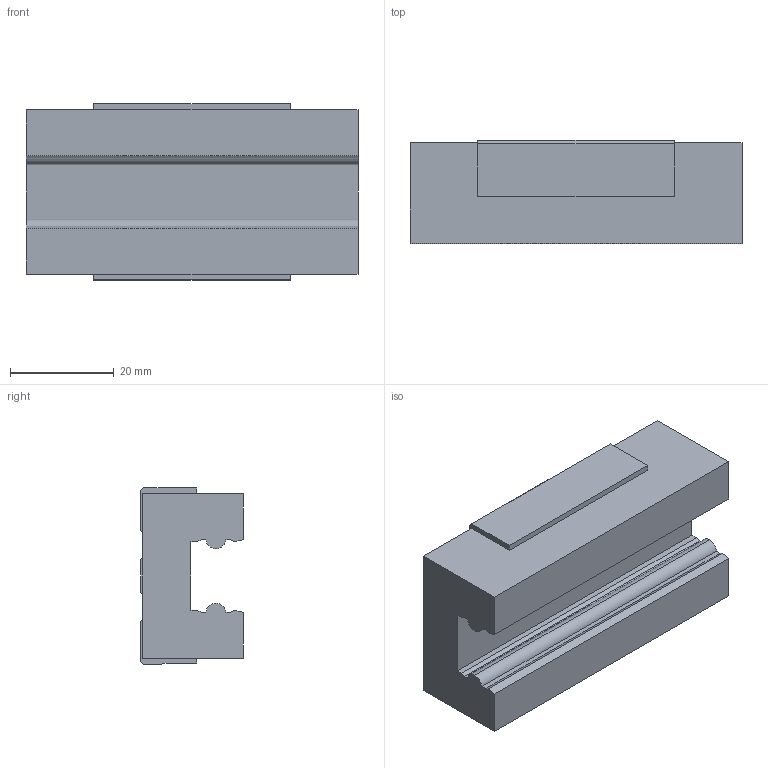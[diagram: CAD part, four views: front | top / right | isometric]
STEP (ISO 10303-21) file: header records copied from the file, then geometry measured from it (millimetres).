
FILE_DESCRIPTION (( 'STEP AP214' ), '1' );
FILE_NAME ('GNS-1500.step', '2021-10-15T05:20:15', ( '' ), ( '' ), 'SwSTEP 2.0', 'SolidWorks 2010', '' );
FILE_SCHEMA (( 'AUTOMOTIVE_DESIGN' ));
Length unit declared in the file: millimetre
Products named in the file (1): GNS-1500
Bounding box: 64 x 19.8 x 34 mm (x, y, z)
Volume: 31807.4 mm3; surface area: 9652.9 mm2
Topology: 1 solids, 1 shells, 75 faces, 195 edges, 118 vertices
Faces by surface type: plane 48, cone 16, cylinder 11
Entity records: 2291 total; most frequent: CARTESIAN_POINT 381, ORIENTED_EDGE 374, DIRECTION 369, EDGE_CURVE 187, LINE 157, VECTOR 157, VERTEX_POINT 118, AXIS2_PLACEMENT_3D 106
